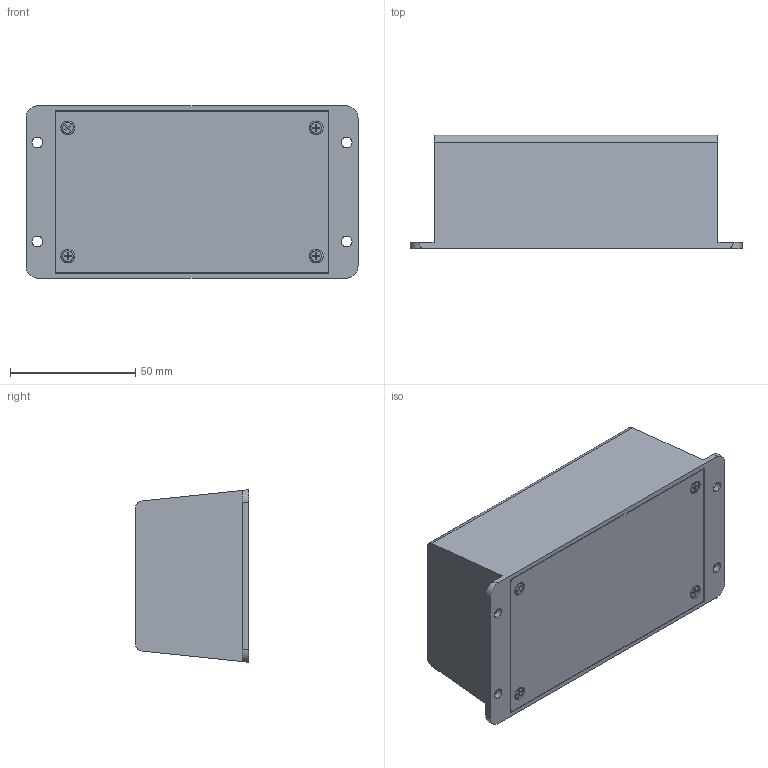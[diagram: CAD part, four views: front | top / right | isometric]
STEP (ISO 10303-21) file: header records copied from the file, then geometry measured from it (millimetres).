
FILE_DESCRIPTION (( 'STEP AP214' ), '1' );
FILE_NAME ('Conjunt PP89.STEP', '2017-10-09T09:51:15', ( 'aaa' ), ( '' ), 'SwSTEP 2.0', 'SolidWorks 2013', '' );
FILE_SCHEMA (( 'AUTOMOTIVE_DESIGN' ));
Length unit declared in the file: millimetre
Products named in the file (5): Cargol 2,2x9,3 PP89; Cargol 2,1x6,5 PP89; Tapa PP89; Cos PP89; Conjunt PP89
Assembly tree (10 placements, depth 2):
  Conjunt PP89
    Cos PP89
    Tapa PP89
    Cargol 2,1x6,5 PP89  x4
    Cargol 2,2x9,3 PP89  x4
Bounding box: 132.75 x 45.2 x 69 mm (x, y, z)
Volume: 66524.2 mm3; surface area: 68464.8 mm2
Topology: 10 solids, 10 shells, 688 faces, 1502 edges, 852 vertices
Faces by surface type: cone 416, plane 166, cylinder 90, torus 16
Entity records: 7748 total; most frequent: DIRECTION 1432, CARTESIAN_POINT 1290, ORIENTED_EDGE 1208, EDGE_CURVE 604, AXIS2_PLACEMENT_3D 556, VERTEX_POINT 366, LINE 320, VECTOR 320
